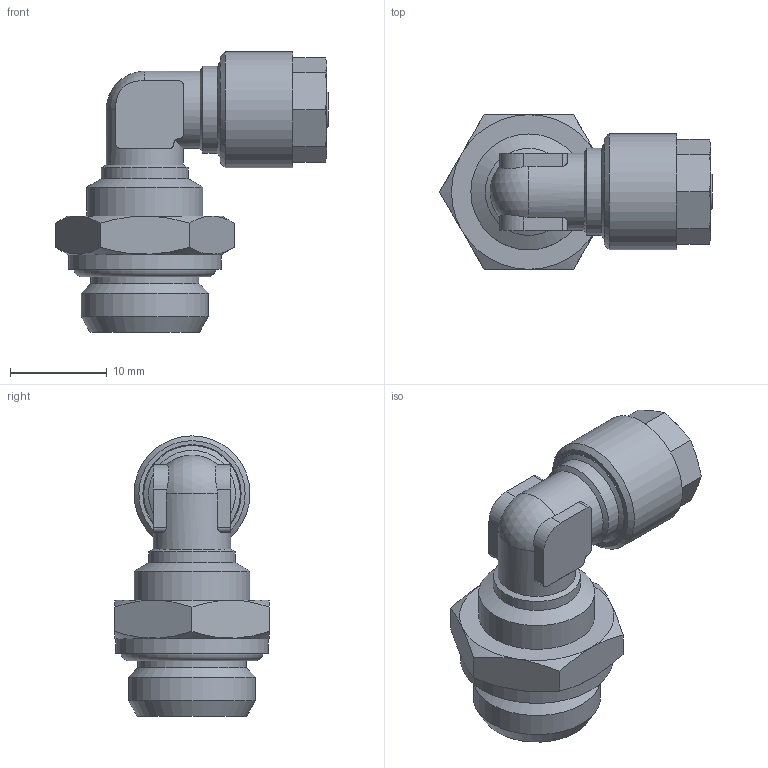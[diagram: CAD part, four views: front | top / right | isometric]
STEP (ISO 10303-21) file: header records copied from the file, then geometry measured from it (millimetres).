
FILE_DESCRIPTION(/* description */ (''),/* implementation_level */ '2;1');
FILE_NAME(/* name */ '11152_305DZ_64_R14_19.07.17',/* time_stamp */ '2017-07-19T11:57:13+02:00',/* author */ (''),/* organization */ (''),/* preprocessor_version */ 'ST-DEVELOPER v16.5',/* originating_system */ 'HiCAD 2016 2102.2 Build 618',/* authorisation */ '');
FILE_SCHEMA (('AUTOMOTIVE_DESIGN { 1 0 10303 214 1 1 1 1 }'));
Length unit declared in the file: millimetre
Products named in the file (5): Root; 17005; OR 11.11X1.78; R11151-N2; 214662-N2
Assembly tree (4 placements, depth 2):
  Root
    17005
    OR 11.11X1.78
    R11151-N2
    214662-N2
Bounding box: 28.24 x 16 x 29 mm (x, y, z)
Volume: 3345.5 mm3; surface area: 3936.3 mm2
Topology: 4 solids, 4 shells, 118 faces, 279 edges, 173 vertices
Faces by surface type: plane 42, cone 37, cylinder 34, torus 4, sphere 1
Full cylindrical faces by diameter (mm): 3.2 x1, 4 x1, 4.3 x1, 4.5 x1, 6 x1, 6.2 x1, 6.8 x2, 7.85 x1, 7.9 x1, 8 x2, 8.5 x1, 8.773 x1, 9 x2, 10 x1, 11.2 x1, 12 x2, 13.157 x1, 15.8 x1
Entity records: 7799 total; most frequent: CARTESIAN_POINT 3132, DIRECTION 576, PRESENTATION_STYLE_ASSIGNMENT 426, COLOUR_RGB 424, DRAUGHTING_PRE_DEFINED_CURVE_FONT 422, CURVE_STYLE 422, OVER_RIDING_STYLED_ITEM 422, ORIENTED_EDGE 422
